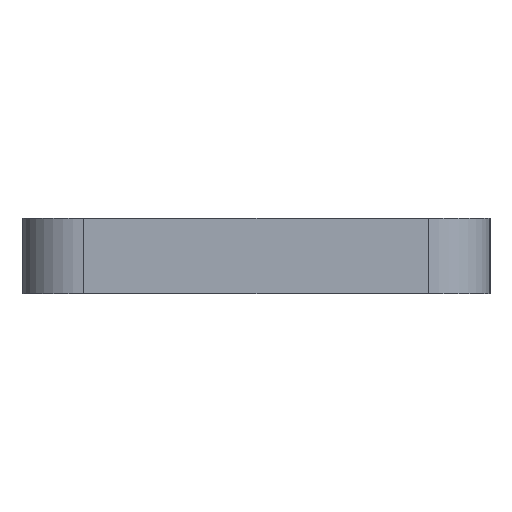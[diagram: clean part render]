
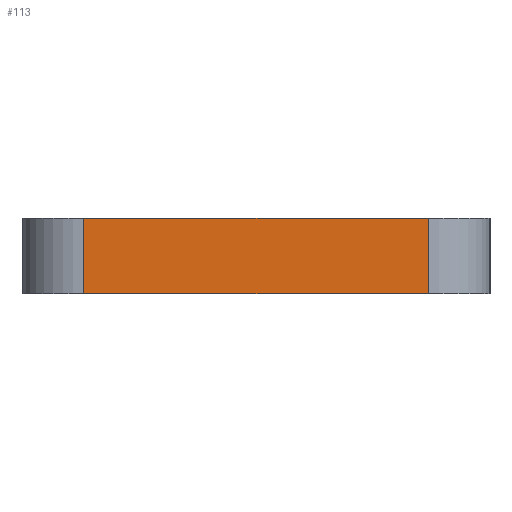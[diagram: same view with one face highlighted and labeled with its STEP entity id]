
A CAD part, left-side view. The second image highlights one B-rep face of the part: STEP entity #113.
In plain terms, the highlighted planar face has unit normal (-1, 0, 0).
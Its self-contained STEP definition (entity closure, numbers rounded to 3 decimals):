
#4 = DIRECTION ( 'NONE',  ( 0., 0., -1. ) ) ;
#10 = VERTEX_POINT ( 'NONE', #90 ) ;
#19 = CARTESIAN_POINT ( 'NONE',  ( -3.4, 2.5, 1.1 ) ) ;
#22 = DIRECTION ( 'NONE',  ( 0., 1., 0. ) ) ;
#44 = EDGE_CURVE ( 'NONE', #543, #343, #93, .T. ) ;
#58 = VECTOR ( 'NONE', #323, 1000. ) ;
#76 = ORIENTED_EDGE ( 'NONE', *, *, #44, .F. ) ;
#79 = CARTESIAN_POINT ( 'NONE',  ( -3.4, 2.5, 1.1 ) ) ;
#89 = VECTOR ( 'NONE', #433, 1000. ) ;
#90 = CARTESIAN_POINT ( 'NONE',  ( -3.4, -2.5, 0. ) ) ;
#93 = LINE ( 'NONE', #19, #426 ) ;
#98 = PLANE ( 'NONE',  #324 ) ;
#99 = ORIENTED_EDGE ( 'NONE', *, *, #130, .F. ) ;
#113 = ADVANCED_FACE ( 'NONE', ( #477 ), #98, .F. ) ;
#130 = EDGE_CURVE ( 'NONE', #343, #10, #303, .T. ) ;
#152 = CARTESIAN_POINT ( 'NONE',  ( -3.4, 2.5, 0. ) ) ;
#154 = VERTEX_POINT ( 'NONE', #224 ) ;
#170 = CARTESIAN_POINT ( 'NONE',  ( -3.4, -2.5, 1.1 ) ) ;
#193 = LINE ( 'NONE', #152, #58 ) ;
#199 = LINE ( 'NONE', #79, #524 ) ;
#224 = CARTESIAN_POINT ( 'NONE',  ( -3.4, 2.5, 0. ) ) ;
#233 = CARTESIAN_POINT ( 'NONE',  ( -3.4, -2.5, 1.1 ) ) ;
#291 = CARTESIAN_POINT ( 'NONE',  ( -3.4, 2.5, 1.1 ) ) ;
#303 = LINE ( 'NONE', #233, #89 ) ;
#323 = DIRECTION ( 'NONE',  ( 0., -1., 0. ) ) ;
#324 = AXIS2_PLACEMENT_3D ( 'NONE', #430, #349, #22 ) ;
#343 = VERTEX_POINT ( 'NONE', #170 ) ;
#349 = DIRECTION ( 'NONE',  ( 1., 0., 0. ) ) ;
#368 = EDGE_CURVE ( 'NONE', #543, #154, #199, .T. ) ;
#382 = DIRECTION ( 'NONE',  ( 0., -1., 0. ) ) ;
#419 = ORIENTED_EDGE ( 'NONE', *, *, #368, .T. ) ;
#426 = VECTOR ( 'NONE', #382, 1000. ) ;
#430 = CARTESIAN_POINT ( 'NONE',  ( -3.4, 2.5, 1.1 ) ) ;
#433 = DIRECTION ( 'NONE',  ( 0., 0., -1. ) ) ;
#441 = ORIENTED_EDGE ( 'NONE', *, *, #515, .T. ) ;
#451 = EDGE_LOOP ( 'NONE', ( #441, #99, #76, #419 ) ) ;
#477 = FACE_OUTER_BOUND ( 'NONE', #451, .T. ) ;
#515 = EDGE_CURVE ( 'NONE', #154, #10, #193, .T. ) ;
#524 = VECTOR ( 'NONE', #4, 1000. ) ;
#543 = VERTEX_POINT ( 'NONE', #291 ) ;
